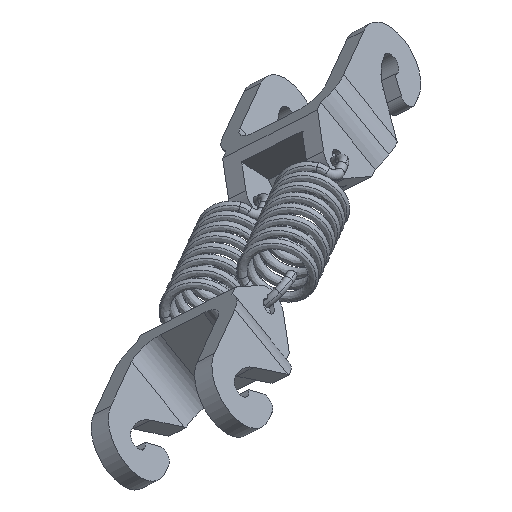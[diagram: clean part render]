
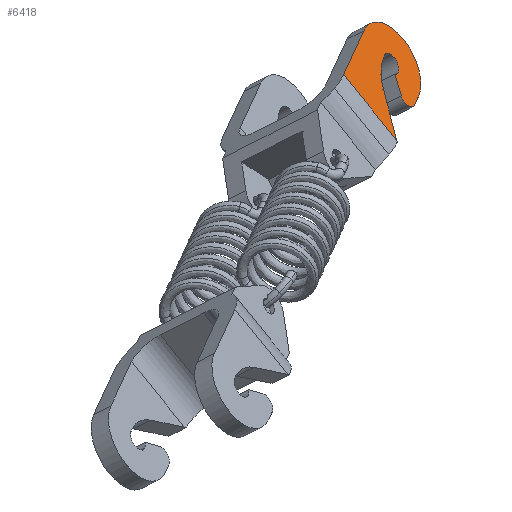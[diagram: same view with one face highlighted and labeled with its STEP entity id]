
A CAD part, isometric view. The second image highlights one B-rep face of the part: STEP entity #6418.
In plain terms, the highlighted planar face has unit normal (0.393, -0.681, 0.618).
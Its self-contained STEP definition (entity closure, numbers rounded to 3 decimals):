
#46 = CIRCLE ( 'NONE', #8033, 9.196 ) ;
#187 = ORIENTED_EDGE ( 'NONE', *, *, #7005, .F. ) ;
#214 = ORIENTED_EDGE ( 'NONE', *, *, #10449, .T. ) ;
#237 = AXIS2_PLACEMENT_3D ( 'NONE', #9460, #4001, #2371 ) ;
#313 = EDGE_CURVE ( 'NONE', #10807, #7788, #11056, .T. ) ;
#337 = CARTESIAN_POINT ( 'NONE',  ( -217.786, 476.217, -288.111 ) ) ;
#374 = EDGE_CURVE ( 'NONE', #7267, #6204, #2333, .T. ) ;
#451 = AXIS2_PLACEMENT_3D ( 'NONE', #8537, #5787, #2313 ) ;
#521 = DIRECTION ( 'NONE',  ( -0.393, 0.681, -0.618 ) ) ;
#1144 = CARTESIAN_POINT ( 'NONE',  ( -216.354, 469.907, -295.972 ) ) ;
#1450 = CARTESIAN_POINT ( 'NONE',  ( -216.972, 470.978, -294.4 ) ) ;
#1474 = CARTESIAN_POINT ( 'NONE',  ( -216.735, 475.397, -289.683 ) ) ;
#1547 = VERTEX_POINT ( 'NONE', #10284 ) ;
#1739 = VECTOR ( 'NONE', #7776, 1000. ) ;
#1979 = DIRECTION ( 'NONE',  ( 0., -0.672, -0.74 ) ) ;
#2033 = CARTESIAN_POINT ( 'NONE',  ( -231.332, 472.679, -283.394 ) ) ;
#2064 = AXIS2_PLACEMENT_3D ( 'NONE', #9937, #3456, #10420 ) ;
#2168 = CARTESIAN_POINT ( 'NONE',  ( -219.208, 479.679, -283.394 ) ) ;
#2202 = ORIENTED_EDGE ( 'NONE', *, *, #313, .F. ) ;
#2270 = CARTESIAN_POINT ( 'NONE',  ( -216.735, 475.397, -289.683 ) ) ;
#2313 = DIRECTION ( 'NONE',  ( 0., -0.672, -0.74 ) ) ;
#2333 = LINE ( 'NONE', #9193, #2775 ) ;
#2371 = DIRECTION ( 'NONE',  ( 0., -0.672, -0.74 ) ) ;
#2484 = VERTEX_POINT ( 'NONE', #4038 ) ;
#2647 = VERTEX_POINT ( 'NONE', #11190 ) ;
#2691 = EDGE_CURVE ( 'NONE', #6602, #8655, #7074, .T. ) ;
#2723 = CARTESIAN_POINT ( 'NONE',  ( -217.353, 476.467, -288.111 ) ) ;
#2775 = VECTOR ( 'NONE', #7623, 1000. ) ;
#2988 = ORIENTED_EDGE ( 'NONE', *, *, #7498, .F. ) ;
#3087 = CARTESIAN_POINT ( 'NONE',  ( -218.678, 470.941, -293.356 ) ) ;
#3133 = ORIENTED_EDGE ( 'NONE', *, *, #374, .T. ) ;
#3182 = PLANE ( 'NONE',  #3596 ) ;
#3244 = CARTESIAN_POINT ( 'NONE',  ( -216.735, 480.774, -283.76 ) ) ;
#3271 = CIRCLE ( 'NONE', #5667, 2. ) ;
#3456 = DIRECTION ( 'NONE',  ( -0.393, 0.681, -0.618 ) ) ;
#3596 = AXIS2_PLACEMENT_3D ( 'NONE', #6660, #4058, #5729 ) ;
#3788 = LINE ( 'NONE', #4600, #10099 ) ;
#3878 = ORIENTED_EDGE ( 'NONE', *, *, #5644, .F. ) ;
#4001 = DIRECTION ( 'NONE',  ( 0.393, -0.681, 0.618 ) ) ;
#4016 = CARTESIAN_POINT ( 'NONE',  ( -226.483, 464.28, -295.729 ) ) ;
#4038 = CARTESIAN_POINT ( 'NONE',  ( -222.586, 471.524, -290.228 ) ) ;
#4058 = DIRECTION ( 'NONE',  ( -0.393, 0.681, -0.618 ) ) ;
#4133 = DIRECTION ( 'NONE',  ( 0.393, -0.681, 0.618 ) ) ;
#4310 = CARTESIAN_POINT ( 'NONE',  ( -214.263, 471.115, -295.972 ) ) ;
#4569 = CARTESIAN_POINT ( 'NONE',  ( -216.972, 469.633, -295.881 ) ) ;
#4600 = CARTESIAN_POINT ( 'NONE',  ( -226.387, 464.115, -295.972 ) ) ;
#4778 = ORIENTED_EDGE ( 'NONE', *, *, #9776, .F. ) ;
#4888 = DIRECTION ( 'NONE',  ( 0., -0.672, -0.74 ) ) ;
#5003 = ORIENTED_EDGE ( 'NONE', *, *, #9135, .F. ) ;
#5010 = VECTOR ( 'NONE', #8266, 1000. ) ;
#5033 = DIRECTION ( 'NONE',  ( 0.393, -0.681, 0.618 ) ) ;
#5074 = DIRECTION ( 'NONE',  ( 0.393, -0.681, 0.618 ) ) ;
#5357 = LINE ( 'NONE', #8908, #11273 ) ;
#5523 = DIRECTION ( 'NONE',  ( -0.309, 0.535, 0.786 ) ) ;
#5644 = EDGE_CURVE ( 'NONE', #7267, #2484, #46, .T. ) ;
#5667 = AXIS2_PLACEMENT_3D ( 'NONE', #2270, #4133, #4888 ) ;
#5729 = DIRECTION ( 'NONE',  ( 0., 0.672, 0.74 ) ) ;
#5784 = ORIENTED_EDGE ( 'NONE', *, *, #7526, .F. ) ;
#5787 = DIRECTION ( 'NONE',  ( -0.393, 0.681, -0.618 ) ) ;
#5790 = DIRECTION ( 'NONE',  ( -0.866, -0.5, 0. ) ) ;
#6204 = VERTEX_POINT ( 'NONE', #2723 ) ;
#6409 = EDGE_CURVE ( 'NONE', #1547, #2647, #6936, .T. ) ;
#6418 = ADVANCED_FACE ( 'NONE', ( #7548 ), #3182, .F. ) ;
#6566 = CARTESIAN_POINT ( 'NONE',  ( -218.678, 470.941, -293.356 ) ) ;
#6602 = VERTEX_POINT ( 'NONE', #3244 ) ;
#6626 = EDGE_CURVE ( 'NONE', #8655, #10986, #7893, .T. ) ;
#6660 = CARTESIAN_POINT ( 'NONE',  ( -226.387, 464.115, -295.972 ) ) ;
#6797 = DIRECTION ( 'NONE',  ( -0.393, 0.681, -0.618 ) ) ;
#6936 = CIRCLE ( 'NONE', #237, 2. ) ;
#6994 = CIRCLE ( 'NONE', #9417, 8. ) ;
#7005 = EDGE_CURVE ( 'NONE', #10155, #10784, #3788, .T. ) ;
#7074 = CIRCLE ( 'NONE', #2064, 8. ) ;
#7132 = CIRCLE ( 'NONE', #11235, 2. ) ;
#7267 = VERTEX_POINT ( 'NONE', #337 ) ;
#7313 = ORIENTED_EDGE ( 'NONE', *, *, #6409, .F. ) ;
#7432 = EDGE_LOOP ( 'NONE', ( #5784, #11497, #10436, #10577, #214, #187, #4778, #3878, #3133, #10700, #7313, #5003, #2202, #2988 ) ) ;
#7498 = EDGE_CURVE ( 'NONE', #7736, #10807, #7132, .T. ) ;
#7526 = EDGE_CURVE ( 'NONE', #10986, #7736, #8636, .T. ) ;
#7548 = FACE_OUTER_BOUND ( 'NONE', #7432, .T. ) ;
#7623 = DIRECTION ( 'NONE',  ( 0.866, 0.5, 0. ) ) ;
#7691 = CARTESIAN_POINT ( 'NONE',  ( -214.944, 471.295, -295.34 ) ) ;
#7736 = VERTEX_POINT ( 'NONE', #4569 ) ;
#7776 = DIRECTION ( 'NONE',  ( -0.866, -0.5, 0. ) ) ;
#7788 = VERTEX_POINT ( 'NONE', #11258 ) ;
#7893 = LINE ( 'NONE', #10385, #1739 ) ;
#8033 = AXIS2_PLACEMENT_3D ( 'NONE', #7691, #5074, #8625 ) ;
#8197 = DIRECTION ( 'NONE',  ( -0.394, -0.732, -0.556 ) ) ;
#8266 = DIRECTION ( 'NONE',  ( 0.344, 0.732, 0.588 ) ) ;
#8359 = CARTESIAN_POINT ( 'NONE',  ( -219.208, 479.679, -283.394 ) ) ;
#8537 = CARTESIAN_POINT ( 'NONE',  ( -216.972, 470.978, -294.4 ) ) ;
#8625 = DIRECTION ( 'NONE',  ( 0., -0.672, -0.74 ) ) ;
#8636 = CIRCLE ( 'NONE', #451, 2. ) ;
#8655 = VERTEX_POINT ( 'NONE', #4310 ) ;
#8895 = VECTOR ( 'NONE', #5790, 1000. ) ;
#8908 = CARTESIAN_POINT ( 'NONE',  ( -222.586, 471.524, -290.228 ) ) ;
#9066 = CIRCLE ( 'NONE', #9812, 2. ) ;
#9135 = EDGE_CURVE ( 'NONE', #7788, #1547, #3271, .T. ) ;
#9193 = CARTESIAN_POINT ( 'NONE',  ( -217.786, 476.217, -288.111 ) ) ;
#9231 = LINE ( 'NONE', #8359, #8895 ) ;
#9417 = AXIS2_PLACEMENT_3D ( 'NONE', #11113, #521, #11052 ) ;
#9460 = CARTESIAN_POINT ( 'NONE',  ( -216.735, 475.397, -289.683 ) ) ;
#9587 = VERTEX_POINT ( 'NONE', #2168 ) ;
#9776 = EDGE_CURVE ( 'NONE', #2484, #10155, #5357, .T. ) ;
#9812 = AXIS2_PLACEMENT_3D ( 'NONE', #1474, #5033, #1979 ) ;
#9937 = CARTESIAN_POINT ( 'NONE',  ( -216.735, 475.397, -289.683 ) ) ;
#10099 = VECTOR ( 'NONE', #5523, 1000. ) ;
#10155 = VERTEX_POINT ( 'NONE', #4016 ) ;
#10191 = EDGE_CURVE ( 'NONE', #9587, #6602, #6994, .T. ) ;
#10284 = CARTESIAN_POINT ( 'NONE',  ( -216.735, 474.052, -291.164 ) ) ;
#10348 = DIRECTION ( 'NONE',  ( 0., -0.672, -0.74 ) ) ;
#10385 = CARTESIAN_POINT ( 'NONE',  ( -214.263, 471.115, -295.972 ) ) ;
#10420 = DIRECTION ( 'NONE',  ( 0., 0.672, 0.74 ) ) ;
#10436 = ORIENTED_EDGE ( 'NONE', *, *, #2691, .F. ) ;
#10449 = EDGE_CURVE ( 'NONE', #9587, #10784, #9231, .T. ) ;
#10577 = ORIENTED_EDGE ( 'NONE', *, *, #10191, .F. ) ;
#10699 = EDGE_CURVE ( 'NONE', #2647, #6204, #9066, .T. ) ;
#10700 = ORIENTED_EDGE ( 'NONE', *, *, #10699, .F. ) ;
#10784 = VERTEX_POINT ( 'NONE', #2033 ) ;
#10807 = VERTEX_POINT ( 'NONE', #3087 ) ;
#10986 = VERTEX_POINT ( 'NONE', #1144 ) ;
#11052 = DIRECTION ( 'NONE',  ( 0., 0.672, 0.74 ) ) ;
#11056 = LINE ( 'NONE', #6566, #5010 ) ;
#11113 = CARTESIAN_POINT ( 'NONE',  ( -216.735, 475.397, -289.683 ) ) ;
#11190 = CARTESIAN_POINT ( 'NONE',  ( -216.735, 476.741, -288.202 ) ) ;
#11235 = AXIS2_PLACEMENT_3D ( 'NONE', #1450, #6797, #10348 ) ;
#11258 = CARTESIAN_POINT ( 'NONE',  ( -217.269, 473.941, -290.947 ) ) ;
#11273 = VECTOR ( 'NONE', #8197, 1000. ) ;
#11497 = ORIENTED_EDGE ( 'NONE', *, *, #6626, .F. ) ;
